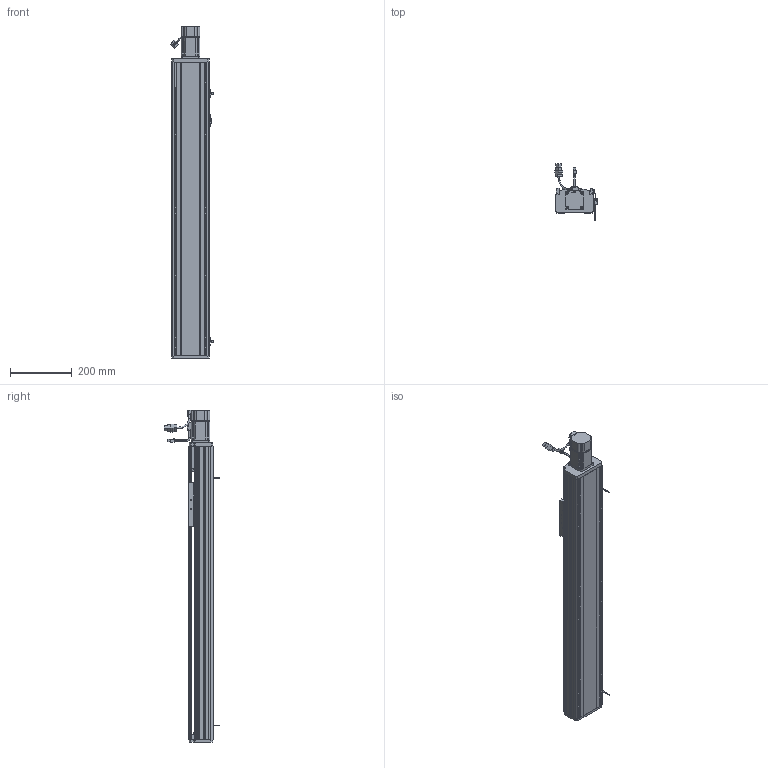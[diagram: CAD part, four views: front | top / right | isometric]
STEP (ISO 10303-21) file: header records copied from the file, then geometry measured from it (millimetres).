
FILE_DESCRIPTION (( 'STEP AP214' ), '1' );
FILE_NAME ('CTH120-700.STEP', '2019-11-20T02:42:44', ( '微软用户' ), ( '微软中国' ), 'SwSTEP 2.0', 'SolidWorks 2017', '' );
FILE_SCHEMA (( 'AUTOMOTIVE_DESIGN' ));
Length unit declared in the file: millimetre
Products named in the file (33): 遣喳蝶15x12x8; M4-L10囀鞠褒蹟佪; M4-L22囀鞠褒蹟佪; 7001-DB; 7001; 噩砃EGH15-CA; 粣創揤啣; M3-L8囀鞠褒蹟佪; COL12B-粣遠; CT12耀郪-覜茼んえ; 坶踡蹟譫; EE-SX672-BR; 120耀郪-粣創釱; M4-L6半圆头内六角螺丝; 120耀郪-傷啣; M5-L20囀鞠褒蹟佪; 120模组-盖子_默认<按加工>; M5-L12囀鞠褒蹟佪; 120耀郪-侜督儂啣; 怢湛200W侜督萇儂ECMA-CX0602ES; SFH1605; 盓傅釱蚾饜极; 136蹟簽蟀諉輸; 6000; 120模组-移动座_默认<按加工>; 120耀郪-盓傅釱; SFH1605-450; M4-L16囀鞠褒蹟佪; 120模组-底座_默认<按加工>; EGH15-CA; EGH15_RAIL; CTH120-700; 珨极宒粣創釱
Assembly tree (90 placements, depth 4):
  CTH120-700
    120模组-底座_默认<按加工>
    SFH1605-450
    120模组-移动座_默认<按加工>
    136蹟簽蟀諉輸
    SFH1605
    120耀郪-侜督儂啣
    120模组-盖子_默认<按加工>
    120耀郪-傷啣
    珨极宒粣創釱
      120耀郪-粣創釱
      坶踡蹟譫
      COL12B-粣遠  x2
      粣創揤啣
      7001-DB
        7001  x2
      M4-L22囀鞠褒蹟佪  x6
      M4-L10囀鞠褒蹟佪  x4
      遣喳蝶15x12x8
    EGH15_RAIL  x2
    EGH15-CA  x2
    M4-L16囀鞠褒蹟佪  x8
    M4-L10囀鞠褒蹟佪  x22
    盓傅釱蚾饜极
      120耀郪-盓傅釱
      6000
      遣喳蝶15x12x8  x2
      M4-L22囀鞠褒蹟佪  x2
    怢湛200W侜督萇儂ECMA-CX0602ES
    M5-L12囀鞠褒蹟佪  x3
    M5-L20囀鞠褒蹟佪  x4
    M4-L6半圆头内六角螺丝  x4
    EE-SX672-BR  x2
    CT12耀郪-覜茼んえ
    M3-L8囀鞠褒蹟佪  x4
    噩砃EGH15-CA  x2
Bounding box: 137.94 x 179.67 x 1072 mm (x, y, z)
Volume: 4121872.5 mm3; surface area: 1259923.5 mm2
Topology: 87 solids, 96 shells, 5278 faces, 13919 edges, 8905 vertices
Faces by surface type: plane 2853, cylinder 1552, cone 539, bspline 241, torus 81, sphere 12
Entity records: 111984 total; most frequent: CARTESIAN_POINT 32914, ORIENTED_EDGE 16636, DIRECTION 15067, EDGE_CURVE 8318, VERTEX_POINT 5459, AXIS2_PLACEMENT_3D 5133, LINE 4801, VECTOR 4801
